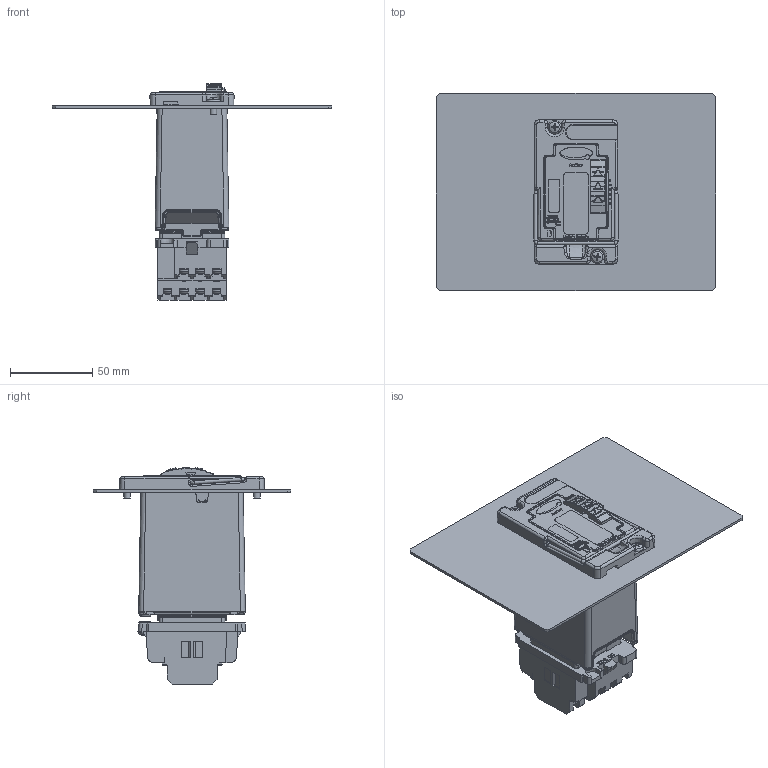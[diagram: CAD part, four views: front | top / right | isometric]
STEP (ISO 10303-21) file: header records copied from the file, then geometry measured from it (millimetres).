
FILE_DESCRIPTION(/* description */ (''),/* implementation_level */ '2;1');
FILE_NAME(/* name */ 'U:\M1 Attachments\CRs\CR1124 - Sales support\FU 153983 - 3D Model Step Files for Delta Enclosures\Flush Mount (No Bracket).stp',/* time_stamp */ '2023-06-28T11:52:10+10:00',/* author */ ('sarah.rady'),/* organization */ (''),/* preprocessor_version */ 'ST-DEVELOPER v19',/* originating_system */ 'Autodesk Inventor 2023',/* authorisation */ '');
FILE_SCHEMA (('AUTOMOTIVE_DESIGN { 1 0 10303 214 3 1 1 }'));
Products named in the file (1): Part4
Bounding box: 170 x 120 x 132.78 mm (x, y, z)
Volume: 332250.9 mm3; surface area: 107256.5 mm2
Topology: 2 solids, 2 shells, 4095 faces, 11518 edges, 7430 vertices
Faces by surface type: plane 2456, bspline 679, cylinder 615, cone 200, torus 94, sphere 51
Full cylindrical faces by diameter (mm): 2.1 x7, 3.571 x14, 4 x17
Entity records: 151699 total; most frequent: CARTESIAN_POINT 45272, ORIENTED_EDGE 22926, DIRECTION 18973, EDGE_CURVE 11463, LINE 7739, VECTOR 7739, VERTEX_POINT 7427, AXIS2_PLACEMENT_3D 5617
